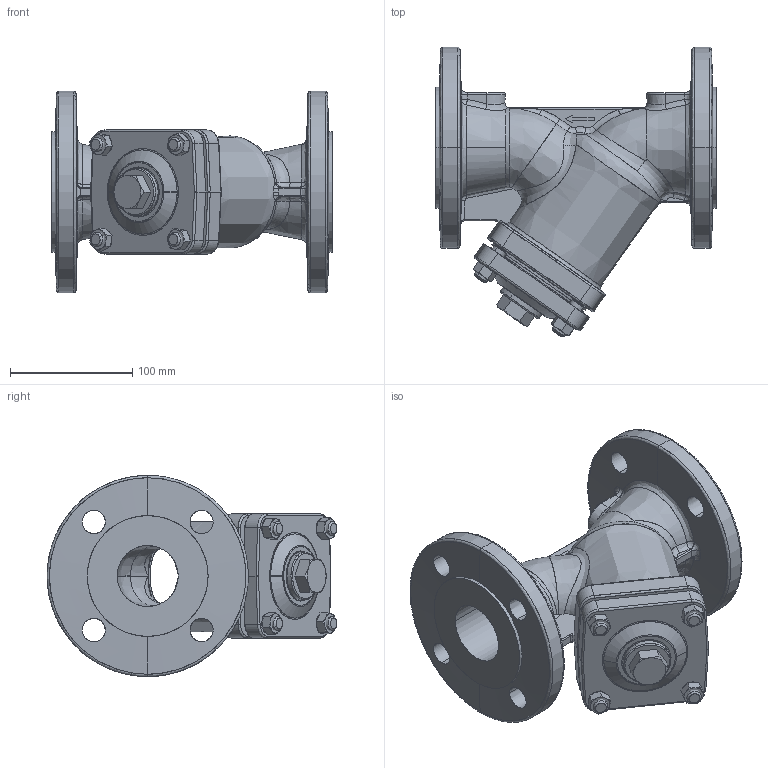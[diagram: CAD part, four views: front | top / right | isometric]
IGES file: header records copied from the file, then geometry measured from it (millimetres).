
Start section: SolidWorks IGES file using analytic representation for surfaces
Global section: file name: D:\katalog z³o¿eñ\00_Gotowe\821\RYSUNKI DXF\Z£O¯ENIA\Part\821_DN50_PN16.IGS; native system: SolidWorks 2010; preprocessor: SolidWorks 2010; author: alisowsk; date: 100108.125844; units: millimetre
Bounding box: 230 x 237.63 x 165 mm (x, y, z)
Surface area: 275252.4 mm2 (no closed solid volume)
Topology: 0 solids, 0 shells, 594 faces, 9168 edges, 9163 vertices
Faces by surface type: bspline 299, revolution 295
